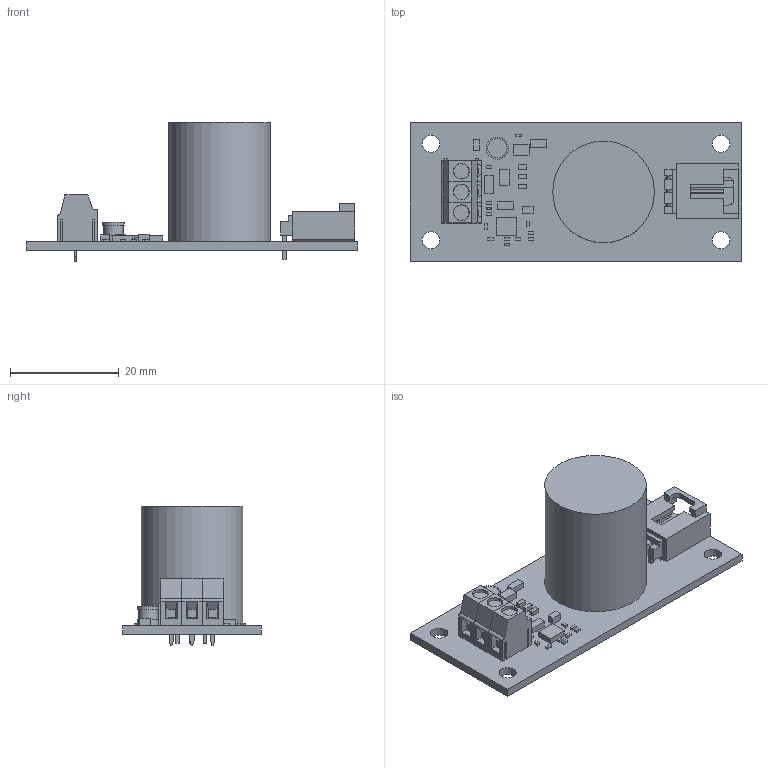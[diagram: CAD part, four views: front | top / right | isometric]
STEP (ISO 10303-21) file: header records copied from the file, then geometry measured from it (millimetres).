
FILE_DESCRIPTION(('Open CASCADE Model'),'2;1');
FILE_NAME('Open CASCADE Shape Model','2012-05-24T12:14:30',('Author'),( 'Open CASCADE'),'Open CASCADE STEP processor 6.2','Open CASCADE 6.2' ,'Unknown');
FILE_SCHEMA(('AUTOMOTIVE_DESIGN { 1 0 10303 214 1 1 1 1 }'));
Length unit declared in the file: millimetre
Products named in the file (68): PCB; Board; C10; 701863920; Extruded; C9; C1; 715246632; Cylinder; C3; 448263312; C4; 701865200; C5; 851209072; C6; C7; C8; 701842800; D1; 886117280; J1; 705530002; Open CASCADE STEP translator 6.2 7.12.1.1; Open CASCADE STEP translator 6.2 7.12.1.2; J2; 20020327-d02_asm; 20020327-D-LEM; 20020327-D-REM; L1; 715271352; 715271472; 715274232; R1; R2; R3; 886109600; R4; R5; R6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
Assembly tree (82 placements, depth 4):
  PCB
    Board
    C10
      701863920
        Extruded
    C9
      701863920
        Extruded
    C1
      715246632
        Cylinder
    C3
      448263312
        Extruded
    C4
      701865200
        Extruded
    C5
      851209072
        Extruded
    C6
      701863920
        Extruded
    C7
      701863920
        Extruded
    C8
      701842800
        Extruded
    D1
      886117280
        Extruded
    J1
      705530002
        Open CASCADE STEP translator 6.2 7.12.1.1
        Open CASCADE STEP translator 6.2 7.12.1.2
    J2
      20020327-d02_asm  x2
        20020327-D-LEM
        20020327-D-REM
    L1
      715271352
        Cylinder
      715271472
        Cylinder
      715274232
        Cylinder
    R1
      701842800
        Extruded
    R2
      701863920
        Extruded
    R3
      886109600
        Extruded
    R4
      701863920
        Extruded
    R5
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Bounding box: 60.96 x 25.4 x 25.7 mm (x, y, z)
Volume: 9702.8 mm3; surface area: 7772.3 mm2
Topology: 43 solids, 43 shells, 765 faces, 1902 edges, 1238 vertices
Faces by surface type: plane 665, cylinder 92, cone 8
Full cylindrical faces by diameter (mm): 0.965 x3, 1.321 x5, 3.175 x4, 3.556 x1, 4.064 x2, 18.7 x1
Entity records: 22324 total; most frequent: CARTESIAN_POINT 4075, DIRECTION 3248, LINE 2189, VECTOR 2189, ORIENTED_EDGE 1656, PCURVE 1656, DEFINITIONAL_REPRESENTATION 1656, EDGE_CURVE 828
